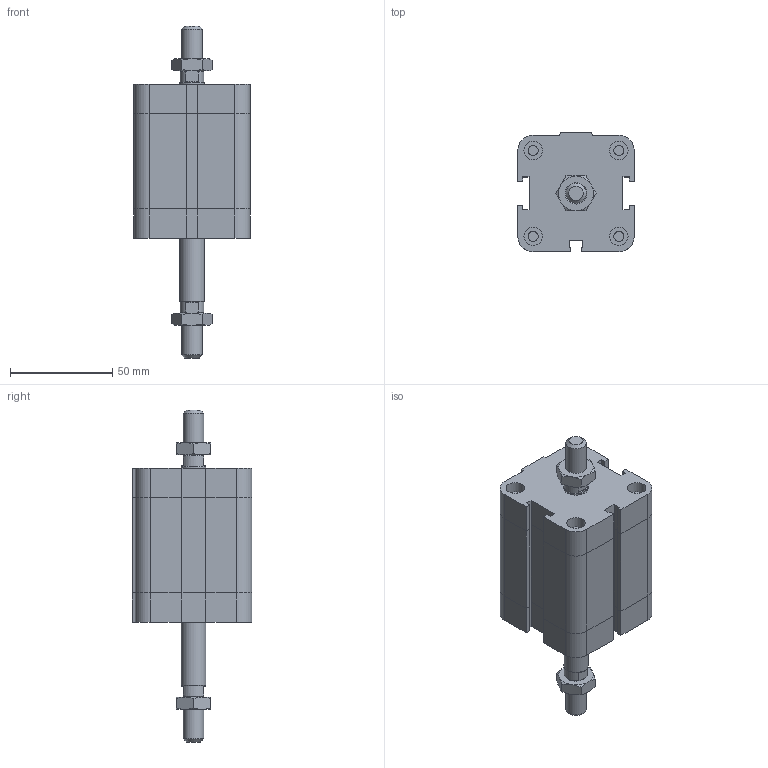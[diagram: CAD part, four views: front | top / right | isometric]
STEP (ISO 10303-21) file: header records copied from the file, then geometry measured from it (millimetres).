
FILE_DESCRIPTION((''),'2;1');
FILE_NAME('I:\Area Tecnica\Disegni\VARIE-3D\Componenti\EUROPE\15##_###_####_04_#\1581_40_0030_04_1.iam.stp','2009-04-20T14:51:33',(''),(''),'Autodesk Inventor 2009','Autodesk Inventor 2009','');
FILE_SCHEMA(('AUTOMOTIVE_DESIGN { 1 0 10303 214 1 1 1 1 }'));
Length unit declared in the file: millimetre
Products named in the file (4): 1581_40_0030_04_1; 1581_40_0030_03_1_C; 1561_40_0030_04_1_S; DBFM10
Assembly tree (4 placements, depth 2):
  1581_40_0030_04_1
    1581_40_0030_03_1_C
    1561_40_0030_04_1_S
    DBFM10  x2
Bounding box: 57 x 58.5 x 162.5 mm (x, y, z)
Volume: 233721 mm3; surface area: 39967.1 mm2
Topology: 4 solids, 4 shells, 222 faces, 483 edges, 289 vertices
Faces by surface type: plane 129, cone 35, bspline 33, cylinder 25
Full cylindrical faces by diameter (mm): 4.917 x4, 8.8 x1, 9 x4, 10 x1, 11.7 x2, 12 x1
Entity records: 5450 total; most frequent: CARTESIAN_POINT 1222, DIRECTION 802, ORIENTED_EDGE 772, EDGE_CURVE 386, AXIS2_PLACEMENT_3D 272, EDGE_LOOP 258, VECTOR 258, LINE 258
